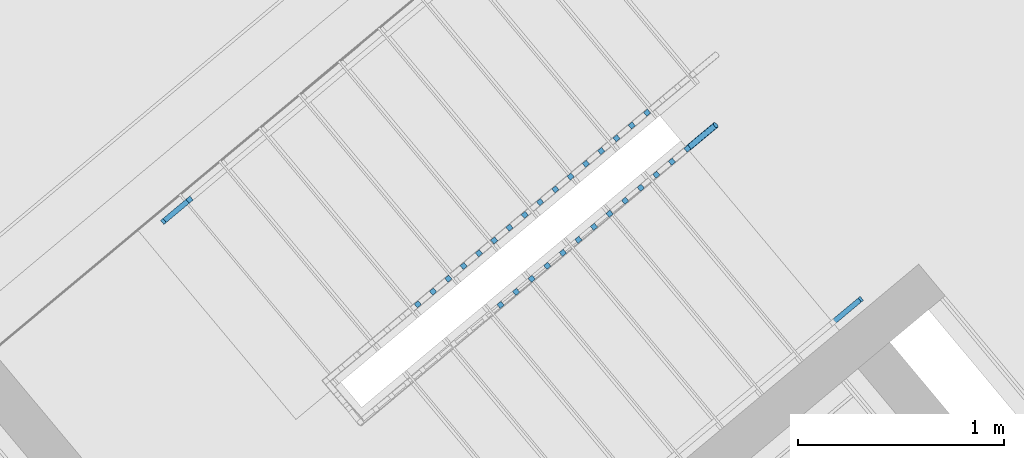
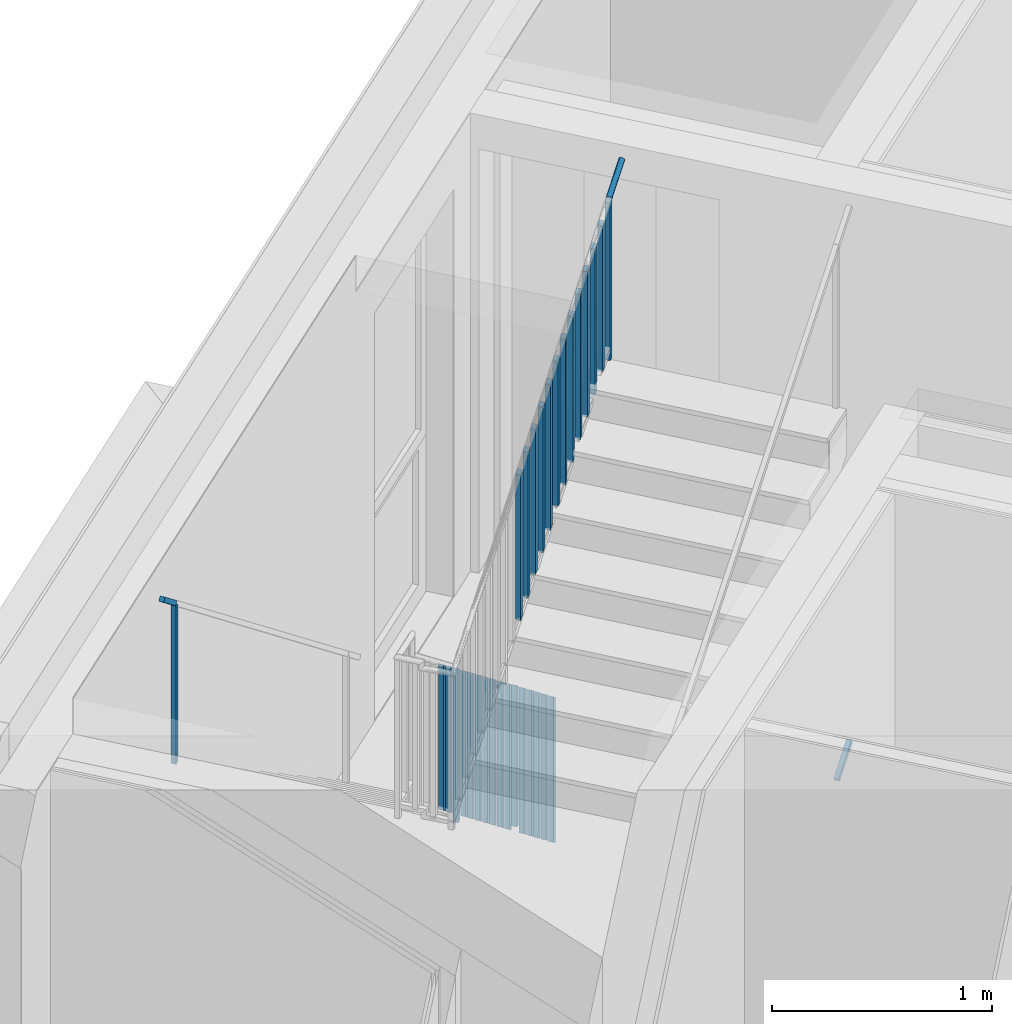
# One storey, part 44 of 53: 33 building element parts, 3 elements without a shape of their own.
"""IFC4 building model written with IfcOpenShell, lengths in metres."""

import ifcopenshell
import ifcopenshell.guid

model = None  # the IFC model being written
_history = None  # IfcOwnerHistory: only IFC2X3 demands one
_inside = {}  # id of a spatial element -> (the spatial element, [elements in it])
_under = {}  # id of a project, library or spatial element -> (it, [spatial elements below it])
_declared = {}  # id of a project -> (the project, [libraries it declares])
_typed = {}  # id of a type object -> (the type object, [elements of that type])
_made_of = {}  # id of a material, layer set ... -> (it, [elements and type objects made of it])


def new_model(schema):
    """Start an empty IFC model of exactly this schema.

    Asked for "IFC4X3", IfcOpenShell would pick the latest addendum, in which some entities
    have other attributes; the version numbers below select the first issue.
    IFC2X3 requires an IfcOwnerHistory on every rooted entity: one is made here for all.
    """
    global model, _history
    if schema == "IFC4X3":
        model = ifcopenshell.file(schema_version=(4, 3, 0, 0))
    else:
        model = ifcopenshell.file(schema=schema)
    _inside.clear()
    _under.clear()
    _declared.clear()
    _typed.clear()
    _made_of.clear()
    _history = None
    if model.schema == "IFC2X3":
        org = make("IfcOrganization", Name="unknown")
        user = make(
            "IfcPersonAndOrganization",
            ThePerson=make("IfcPerson", FamilyName="unknown"),
            TheOrganization=org,
        )
        app = make(
            "IfcApplication",
            ApplicationDeveloper=org,
            Version="unknown",
            ApplicationFullName="unknown",
            ApplicationIdentifier="unknown",
        )
        _history = make(
            "IfcOwnerHistory",
            OwningUser=user,
            OwningApplication=app,
            ChangeAction="ADDED",
            CreationDate=0,
        )
    return model


def make(cls, **values):
    """One entity of the class cls with the attributes given. An attribute that is None is left unset."""
    return model.create_entity(
        cls, **{name: value for name, value in values.items() if value is not None}
    )


def entity(cls, *values):
    """Any entity or typed value of the class cls, its attributes in the order of the schema. None: left unset."""
    e = model.create_entity(cls)
    for i, value in enumerate(values):
        if value is not None:
            e[i] = value
    return e


def rooted(cls, **values):
    """An entity with a GlobalId (a new one), such as an element, a storey or a relation."""
    return make(cls, GlobalId=ifcopenshell.guid.new(), OwnerHistory=_history, **values)


def si_unit(unit_type, name, prefix=None):
    """IfcSIUnit, for example si_unit("LENGTHUNIT", "METRE", prefix="MILLI")."""
    return make("IfcSIUnit", UnitType=unit_type, Prefix=prefix, Name=name)


def converted_unit(unit_type, name, factor, base, dimensions=None, offset=None):
    """IfcConversionBasedUnit, such as the inch: factor (a typed value) times the base unit."""
    return make(
        "IfcConversionBasedUnit"
        if offset is None
        else "IfcConversionBasedUnitWithOffset",
        ConversionOffset=offset,
        Dimensions=None
        if dimensions is None
        else entity("IfcDimensionalExponents", *dimensions),
        UnitType=unit_type,
        Name=name,
        ConversionFactor=make(
            "IfcMeasureWithUnit", ValueComponent=factor, UnitComponent=base
        ),
    )


def derived_unit(unit_type, elements):
    """IfcDerivedUnit: a product of units, each with its exponent."""
    return make(
        "IfcDerivedUnit",
        Elements=[
            make("IfcDerivedUnitElement", Unit=unit, Exponent=power)
            for unit, power in elements
        ],
        UnitType=unit_type,
    )


def assignment(units):
    """IfcUnitAssignment: the units of a project."""
    return None if units is None else make("IfcUnitAssignment", Units=units)


def point(xyz):
    """IfcCartesianPoint."""
    return None if xyz is None else make("IfcCartesianPoint", Coordinates=xyz)


def direction(xyz):
    """IfcDirection."""
    return None if xyz is None else make("IfcDirection", DirectionRatios=xyz)


def frame(location, z_axis=None, x_axis=None):
    """IfcAxis2Placement3D, a coordinate frame: its origin and axes. An axis left out is left unset."""
    return make(
        "IfcAxis2Placement3D",
        Location=point(location),
        Axis=direction(z_axis),
        RefDirection=direction(x_axis),
    )


def origin_with_axes():
    """The frame at (0, 0, 0) with the z axis (0, 0, 1) and the x axis (1, 0, 0) written out."""
    return frame((0.0, 0.0, 0.0), z_axis=(0.0, 0.0, 1.0), x_axis=(1.0, 0.0, 0.0))


def place(relative_to, where):
    """IfcLocalPlacement: puts the frame where relative to a parent placement (None: the world)."""
    return make(
        "IfcLocalPlacement", PlacementRelTo=relative_to, RelativePlacement=where
    )


def context(
    kind, dimensions, precision=None, world=None, true_north=None, identifier=None
):
    """IfcGeometricRepresentationContext, for example the 3D "Model" context."""
    return make(
        "IfcGeometricRepresentationContext",
        ContextIdentifier=identifier,
        ContextType=kind,
        CoordinateSpaceDimension=dimensions,
        Precision=precision,
        WorldCoordinateSystem=world,
        TrueNorth=true_north,
    )


def subcontext(parent, identifier, kind, view, scale=None):
    """IfcGeometricRepresentationSubContext, for example "Body" below "Model"."""
    return make(
        "IfcGeometricRepresentationSubContext",
        ContextIdentifier=identifier,
        ContextType=kind,
        ParentContext=parent,
        TargetScale=scale,
        TargetView=view,
    )


def project(units=None, contexts=None):
    """IfcProject with its units and contexts."""
    return rooted(
        "IfcProject",
        Name="project",
        RepresentationContexts=contexts,
        UnitsInContext=assignment(units),
    )


def spatial(cls, under=None, at=None, **own):
    """A site, building, storey or space (cls), placed at a placement, below another one or the project."""
    s = rooted(cls, ObjectPlacement=at, **own)
    if under is not None:
        _under.setdefault(under.id(), (under, []))[1].append(s)
    return s


def point_list(points):
    """IfcCartesianPointList2D or 3D."""
    cls = (
        "IfcCartesianPointList2D" if len(points[0]) == 2 else "IfcCartesianPointList3D"
    )
    return make(cls, CoordList=points)


def polygons(points, faces, closed=None, point_numbers=None):
    """IfcPolygonalFaceSet: a face is its outer loop, then its inner loops; points numbered from 1."""
    made = []
    for loops in faces:
        if len(loops) == 1:
            made.append(make("IfcIndexedPolygonalFace", CoordIndex=loops[0]))
        else:
            made.append(
                make(
                    "IfcIndexedPolygonalFaceWithVoids",
                    CoordIndex=loops[0],
                    InnerCoordIndices=loops[1:],
                )
            )
    return make(
        "IfcPolygonalFaceSet",
        Coordinates=point_list(points),
        Closed=closed,
        Faces=made,
        PnIndex=point_numbers,
    )


def shape(context_of_items, identifier, shape_type, items):
    """IfcShapeRepresentation: the items that make up one representation, for example the "Body"."""
    return make(
        "IfcShapeRepresentation",
        ContextOfItems=context_of_items,
        RepresentationIdentifier=identifier,
        RepresentationType=shape_type,
        Items=items,
    )


def material(Name=None, Category=None):
    """IfcMaterial."""
    return make("IfcMaterial", Name=Name, Category=Category)


def made_of(thing, what):
    """Note that an element or type object is made of a material, layer set ...; save() writes the relation."""
    if what is not None:
        _made_of.setdefault(what.id(), (what, []))[1].append(thing)
    return thing


def type_object(cls, material=None, **own):
    """A type object (cls), such as IfcWallType, which elements share."""
    return made_of(rooted(cls, **own), material)


def element(
    cls,
    number,
    at=None,
    inside=None,
    cuts=None,
    type_object=None,
    material=None,
    context=None,
    identifier="Body",
    shape_type=None,
    held_by="IfcProductDefinitionShape",
    body=None,
    shapes=None,
    **own,
):
    """One element of the class cls, such as IfcWall. Its Tag is "e" and its number.

    at: its placement. inside: the storey or other place that contains it. cuts: it is an
    opening in that element (IfcRelVoidsElement). A single representation is given by context,
    identifier, shape_type and body (its items); several are given by shapes. held_by: the class
    of the entity that holds the representations. save() writes the other relations.
    """
    e = rooted(cls, Tag="e%d" % number, ObjectPlacement=at, **own)
    if body is not None:
        shapes = [shape(context, identifier, shape_type, body)]
    if shapes is not None:
        e.Representation = make(held_by, Representations=shapes)
    if inside is not None:
        _inside.setdefault(inside.id(), (inside, []))[1].append(e)
    if cuts is not None:
        rooted(
            "IfcRelVoidsElement", RelatingBuildingElement=cuts, RelatedOpeningElement=e
        )
    if type_object is not None:
        _typed.setdefault(type_object.id(), (type_object, []))[1].append(e)
    return made_of(e, material)


def aggregate(whole, parts):
    """IfcRelAggregates: a whole, such as a stair, and the parts it consists of."""
    return rooted("IfcRelAggregates", RelatingObject=whole, RelatedObjects=parts)


def save(model, path):
    """Write the relations noted so far, then the file.

    IfcRelAggregates (storeys below a building ...), IfcRelContainedInSpatialStructure (elements
    in a storey), IfcRelDefinesByType, IfcRelAssociatesMaterial and IfcRelDeclares: one each for
    every whole, place, type object, material and project.
    """
    for whole, parts in _under.values():
        aggregate(whole, parts)
    for where, things in _inside.values():
        rooted(
            "IfcRelContainedInSpatialStructure",
            RelatedElements=things,
            RelatingStructure=where,
        )
    for kind, things in _typed.values():
        rooted("IfcRelDefinesByType", RelatedObjects=things, RelatingType=kind)
    for what, things in _made_of.values():
        rooted("IfcRelAssociatesMaterial", RelatedObjects=things, RelatingMaterial=what)
    for by, libraries in _declared.values():
        rooted("IfcRelDeclares", RelatingContext=by, RelatedDefinitions=libraries)
    model.write(path)


model = new_model("IFC4")

# Units and contexts
model_context = context("Model", 3, precision=1e-05, world=origin_with_axes(), true_north=direction((0.0, 1.0)))
body_context = subcontext(model_context, "Body", "Model", "MODEL_VIEW")
ifc_project = project(units=[si_unit("LENGTHUNIT", "METRE"), si_unit("AREAUNIT", "SQUARE_METRE"), si_unit("VOLUMEUNIT", "CUBIC_METRE"), converted_unit("PLANEANGLEUNIT", "DEGREE", entity("IfcPlaneAngleMeasure", 0.0174532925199), si_unit("PLANEANGLEUNIT", "RADIAN"), dimensions=[0, 0, 0, 0, 0, 0, 0]), converted_unit("TIMEUNIT", "Year", entity("IfcTimeMeasure", 31556926.0), si_unit("TIMEUNIT", "SECOND"), dimensions=[0, 0, 1, 0, 0, 0, 0]), si_unit("MASSUNIT", "GRAM", prefix="KILO"), si_unit("THERMODYNAMICTEMPERATUREUNIT", "DEGREE_CELSIUS"), si_unit("LUMINOUSINTENSITYUNIT", "LUMEN"), si_unit("ENERGYUNIT", "JOULE", prefix="MEGA"), derived_unit("THERMALCONDUCTANCEUNIT", [(si_unit("POWERUNIT", "WATT"), 1), (si_unit("LENGTHUNIT", "METRE"), -1), (si_unit("THERMODYNAMICTEMPERATUREUNIT", "KELVIN"), -1)]), derived_unit("SPECIFICHEATCAPACITYUNIT", [(si_unit("ENERGYUNIT", "JOULE"), 1), (si_unit("MASSUNIT", "GRAM", prefix="KILO"), -1), (si_unit("THERMODYNAMICTEMPERATUREUNIT", "KELVIN"), -1)]), derived_unit("MASSDENSITYUNIT", [(si_unit("MASSUNIT", "GRAM", prefix="KILO"), 1), (si_unit("VOLUMEUNIT", "CUBIC_METRE"), -1)])], contexts=[model_context])

# Site, building, storey, space
site_placement = place(None, frame((-0.00153261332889, -0.00661245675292, 0.0), z_axis=(0.0, 0.0, 1.0), x_axis=(1.0, 0.0, 0.0)))
site = spatial("IfcSite", under=ifc_project, at=site_placement, Name="Gelände", CompositionType="ELEMENT")
building_placement = place(site_placement, origin_with_axes())
building = spatial("IfcBuilding", under=site, at=building_placement, Name="Gebäude", CompositionType="ELEMENT")
storey_placement = place(building_placement, frame((0.0, 0.0, 2.74), z_axis=(0.0, 0.0, 1.0), x_axis=(1.0, 0.0, 0.0)))
storey = spatial("IfcBuildingStorey", under=building, at=storey_placement, Name="OG1", CompositionType="ELEMENT", Elevation=2.74)
space_1_placement = place(storey_placement, frame((0.186433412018, 25.8823467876, 0.22), z_axis=(0.0, 0.0, 1.0), x_axis=(-0.767365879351, -0.641209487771, 0.0)))
space_1 = spatial("IfcSpace", under=storey, at=space_1_placement, CompositionType="ELEMENT", PredefinedType="NOTDEFINED")

# Railing, building element part
railing_type = type_object("IfcRailingType", Name="Geländerart", PredefinedType="NOTDEFINED")
railing_1_placement = place(space_1_placement, frame((4.02646190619, 2.55537097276, -1.35941176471), z_axis=(0.0, 0.0, 1.0), x_axis=(-0.767365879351, 0.641209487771, 0.0)))
railing_1 = element("IfcRailing", 1, at=railing_1_placement, inside=space_1, type_object=railing_type, Name="Geländer - 002", PredefinedType="NOTDEFINED")
ifc_material = material(Name="BEKLEIDUNG")
building_element_part_1_placement = place(railing_1_placement, origin_with_axes())
building_element_part_1 = element("IfcBuildingElementPart", 2, at=building_element_part_1_placement, material=ifc_material, Name="BEKLEIDUNG", PredefinedType="NOTDEFINED", context=body_context, shape_type="Tessellation", body=[
    polygons([(1.52106335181, 1.31986626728, 2.13941176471), (1.53111960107, 1.32826925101, 2.11812182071), (1.66181700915, 1.43747976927, 2.22296098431), (1.65176075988, 1.42907678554, 2.24425092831), (1.50503311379, 1.33905041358, 2.13941176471), (1.51508936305, 1.34745339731, 2.11812182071), (1.64578677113, 1.45666391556, 2.22296098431), (1.63573052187, 1.44826093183, 2.24425092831)], [[[1, 2, 3, 4]], [[1, 5, 6, 2]], [[2, 6, 7, 3]], [[4, 3, 7, 8]], [[5, 1, 4, 8]], [[6, 5, 8, 7]]], closed=True),
])
aggregate(railing_1, [building_element_part_1])

# Space
space_2_placement = place(storey_placement, frame((0.280300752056, 22.6307267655, 0.22), z_axis=(0.0, 0.0, 1.0), x_axis=(-0.641244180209, 0.767336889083, 0.0)))
space_2 = spatial("IfcSpace", under=storey, at=space_2_placement, CompositionType="ELEMENT", PredefinedType="NOTDEFINED")

# Railing, building element parts
railing_2_placement = place(space_2_placement, frame((1.35982515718, -0.251690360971, -0.17), z_axis=(0.0, 0.0, 1.0), x_axis=(-0.641244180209, -0.767336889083, 0.0)))
railing_2 = element("IfcRailing", 3, at=railing_2_placement, inside=space_2, type_object=railing_type, Name="Geländer - 001", PredefinedType="NOTDEFINED")
building_element_part_2_placement = place(railing_2_placement, origin_with_axes())
building_element_part_2 = element("IfcBuildingElementPart", 4, at=building_element_part_2_placement, material=ifc_material, Name="BEKLEIDUNG", PredefinedType="NOTDEFINED", context=body_context, shape_type="Tessellation", body=[
    polygons([(-0.0409350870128, -0.323945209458, 3.01), (-0.0569653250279, -0.30476106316, 3.01), (-0.0569653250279, -0.30476106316, 3.89767233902), (-0.0409350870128, -0.323945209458, 3.89767233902), (-0.0601192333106, -0.339975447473, 3.01), (-0.0761494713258, -0.320791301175, 3.01), (-0.0761494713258, -0.320791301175, 3.88232766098), (-0.0601192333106, -0.339975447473, 3.88232766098)], [[[1, 2, 3, 4]], [[1, 5, 6, 2]], [[2, 6, 7, 3]], [[4, 3, 7, 8]], [[5, 1, 4, 8]], [[6, 5, 8, 7]]], closed=True),
])
building_element_part_3_placement = place(railing_2_placement, origin_with_axes())
building_element_part_3 = element("IfcBuildingElementPart", 5, at=building_element_part_3_placement, material=ifc_material, Name="BEKLEIDUNG", PredefinedType="NOTDEFINED", context=body_context, shape_type="Tessellation", body=[
    polygons([(-0.0621391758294, -0.305826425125, 3.89721601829), (-0.0630386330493, -0.30687497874, 3.89943593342), (0.0677612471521, -0.197578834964, 4.00405784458), (0.068660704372, -0.196530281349, 4.00183792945), (-0.0609474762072, -0.305127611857, 3.89499610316), (-0.0594997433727, -0.304799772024, 3.89284363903), (-0.0578399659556, -0.304852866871, 3.89082402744), (-0.0560185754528, -0.305285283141, 3.88899863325), (-0.054090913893, -0.306083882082, 3.88742292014), (-0.0521155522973, -0.30722439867, 3.88614476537), (-0.0501525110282, -0.308672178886, 3.88520300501), (-0.0482614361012, -0.310383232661, 3.88462625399), (-0.0464997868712, -0.312305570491, 3.88443203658), (-0.0449210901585, -0.314380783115, 3.88462625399), (-0.043573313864, -0.316545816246, 3.88520300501), (-0.0424974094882, -0.318734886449, 3.88614476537), (-0.0417260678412, -0.320881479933, 3.88742292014), (-0.0412827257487, -0.322920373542, 3.88899863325), (-0.0411808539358, -0.324789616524, 3.89082402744), (-0.041423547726, -0.326432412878, 3.89284363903), (-0.0420034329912, -0.327798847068, 3.89499610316), (-0.0429028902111, -0.328847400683, 3.89721601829), (-0.0440945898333, -0.329546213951, 3.89943593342), (-0.0455423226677, -0.329874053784, 3.90158839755), (-0.0472021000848, -0.329820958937, 3.90360800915), (-0.0490234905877, -0.329388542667, 3.90543340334), (-0.0509511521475, -0.328589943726, 3.90700911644), (-0.0529265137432, -0.327449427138, 3.90828727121), (-0.0548895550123, -0.326001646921, 3.90922903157), (-0.0567806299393, -0.324290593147, 3.90980578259), (-0.0585422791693, -0.322368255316, 3.91), (-0.0601209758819, -0.320293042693, 3.90980578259), (-0.0614687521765, -0.318128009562, 3.90922903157), (-0.0625446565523, -0.315938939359, 3.90828727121), (-0.0633159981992, -0.313792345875, 3.90700911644), (-0.0637593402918, -0.311753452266, 3.90543340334), (-0.0638612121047, -0.309884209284, 3.90360800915), (-0.0636185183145, -0.30824141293, 3.90158839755), (0.0671813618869, -0.198945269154, 4.00621030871), (0.0669386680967, -0.200588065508, 4.00822992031), (0.0670405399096, -0.20245730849, 4.0100553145), (0.0674838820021, -0.204496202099, 4.0116310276), (0.0682552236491, -0.206642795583, 4.01290918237), (0.0693311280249, -0.208831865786, 4.01385094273), (0.0706789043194, -0.210996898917, 4.01442769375), (0.0722576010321, -0.213072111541, 4.01462191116), (0.0740192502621, -0.214994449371, 4.01442769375), (0.0759103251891, -0.216705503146, 4.01385094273), (0.0778733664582, -0.218153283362, 4.01290918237), (0.0798487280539, -0.21929379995, 4.0116310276), (0.0817763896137, -0.220092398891, 4.0100553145), (0.0835977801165, -0.220524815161, 4.00822992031), (0.0852575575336, -0.220577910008, 4.00621030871), (0.0867052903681, -0.220250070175, 4.00405784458), (0.0878969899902, -0.219551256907, 4.00183792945), (0.0887964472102, -0.218502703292, 3.99961801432), (0.0893763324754, -0.217136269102, 3.9974655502), (0.0896190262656, -0.215493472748, 3.9954459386), (0.0895171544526, -0.213624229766, 3.99362054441), (0.0890738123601, -0.211585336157, 3.9920448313), (0.0883024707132, -0.209438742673, 3.99076667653), (0.0872265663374, -0.20724967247, 3.98982491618), (0.0858787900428, -0.205084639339, 3.98924816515), (0.0843000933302, -0.203009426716, 3.98905394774), (0.0825384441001, -0.201087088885, 3.98924816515), (0.0806473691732, -0.199376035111, 3.98982491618), (0.0786843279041, -0.197928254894, 3.99076667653), (0.0767089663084, -0.196787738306, 3.9920448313), (0.0747813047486, -0.195989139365, 3.99362054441), (0.0729599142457, -0.195556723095, 3.9954459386), (0.0713001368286, -0.195503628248, 3.9974655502), (0.0698524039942, -0.195831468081, 3.99961801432)], [[[1, 2, 3, 4]], [[1, 5, 6, 7, 8, 9, 10, 11, 12, 13, 14, 15, 16, 17, 18, 19, 20, 21, 22, 23, 24, 25, 26, 27, 28, 29, 30, 31, 32, 33, 34, 35, 36, 37, 38, 2]], [[2, 38, 39, 3]], [[4, 3, 39, 40, 41, 42, 43, 44, 45, 46, 47, 48, 49, 50, 51, 52, 53, 54, 55, 56, 57, 58, 59, 60, 61, 62, 63, 64, 65, 66, 67, 68, 69, 70, 71, 72]], [[5, 1, 4, 72]], [[6, 5, 72, 71]], [[7, 6, 71, 70]], [[8, 7, 70, 69]], [[9, 8, 69, 68]], [[10, 9, 68, 67]], [[11, 10, 67, 66]], [[12, 11, 66, 65]], [[13, 12, 65, 64]], [[14, 13, 64, 63]], [[15, 14, 63, 62]], [[16, 15, 62, 61]], [[17, 16, 61, 60]], [[18, 17, 60, 59]], [[19, 18, 59, 58]], [[20, 19, 58, 57]], [[21, 20, 57, 56]], [[22, 21, 56, 55]], [[23, 22, 55, 54]], [[24, 23, 54, 53]], [[25, 24, 53, 52]], [[26, 25, 52, 51]], [[27, 26, 51, 50]], [[28, 27, 50, 49]], [[29, 28, 49, 48]], [[30, 29, 48, 47]], [[31, 30, 47, 46]], [[32, 31, 46, 45]], [[33, 32, 45, 44]], [[34, 33, 44, 43]], [[35, 34, 43, 42]], [[36, 35, 42, 41]], [[37, 36, 41, 40]], [[38, 37, 40, 39]]], closed=True),
])
building_element_part_4_placement = place(railing_2_placement, origin_with_axes())
building_element_part_4 = element("IfcBuildingElementPart", 6, at=building_element_part_4_placement, material=ifc_material, Name="BEKLEIDUNG", PredefinedType="NOTDEFINED", context=body_context, shape_type="Tessellation", body=[
    polygons([(-0.272299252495, -0.146065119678, 0.30594278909), (-0.256269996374, -0.165250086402, 0.30594278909), (-0.256269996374, -0.165250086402, 1.11344278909), (-0.272299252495, -0.146065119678, 1.11344278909), (-0.253114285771, -0.130035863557, 0.286450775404), (-0.23708502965, -0.149220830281, 0.286450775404), (-0.23708502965, -0.149220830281, 1.0939507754), (-0.253114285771, -0.130035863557, 1.0939507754)], [[[1, 2, 3, 4]], [[1, 5, 6, 2]], [[2, 6, 7, 3]], [[4, 3, 7, 8]], [[5, 1, 4, 8]], [[6, 5, 8, 7]]], closed=True),
])
building_element_part_5_placement = place(railing_2_placement, origin_with_axes())
building_element_part_5 = element("IfcBuildingElementPart", 7, at=building_element_part_5_placement, material=ifc_material, Name="BEKLEIDUNG", PredefinedType="NOTDEFINED", context=body_context, shape_type="Tessellation", body=[
    polygons([(-0.346510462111, -0.20806942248, 0.381341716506), (-0.33048120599, -0.227254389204, 0.381341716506), (-0.33048120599, -0.227254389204, 1.18884171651), (-0.346510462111, -0.20806942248, 1.18884171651), (-0.327325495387, -0.192040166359, 0.36184970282), (-0.311296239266, -0.211225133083, 0.36184970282), (-0.311296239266, -0.211225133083, 1.16934970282), (-0.327325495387, -0.192040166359, 1.16934970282)], [[[1, 2, 3, 4]], [[1, 5, 6, 2]], [[2, 6, 7, 3]], [[4, 3, 7, 8]], [[5, 1, 4, 8]], [[6, 5, 8, 7]]], closed=True),
])
building_element_part_6_placement = place(railing_2_placement, origin_with_axes())
building_element_part_6 = element("IfcBuildingElementPart", 8, at=building_element_part_6_placement, material=ifc_material, Name="BEKLEIDUNG", PredefinedType="NOTDEFINED", context=body_context, shape_type="Tessellation", body=[
    polygons([(-0.420721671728, -0.270073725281, 0.456740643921), (-0.404692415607, -0.289258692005, 0.456740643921), (-0.404692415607, -0.289258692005, 1.26424064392), (-0.420721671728, -0.270073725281, 1.26424064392), (-0.401536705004, -0.25404446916, 0.437248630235), (-0.385507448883, -0.273229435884, 0.437248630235), (-0.385507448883, -0.273229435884, 1.24474863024), (-0.401536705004, -0.25404446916, 1.24474863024)], [[[1, 2, 3, 4]], [[1, 5, 6, 2]], [[2, 6, 7, 3]], [[4, 3, 7, 8]], [[5, 1, 4, 8]], [[6, 5, 8, 7]]], closed=True),
])
building_element_part_7_placement = place(railing_2_placement, origin_with_axes())
building_element_part_7 = element("IfcBuildingElementPart", 9, at=building_element_part_7_placement, material=ifc_material, Name="BEKLEIDUNG", PredefinedType="NOTDEFINED", context=body_context, shape_type="Tessellation", body=[
    polygons([(-0.494932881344, -0.332078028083, 0.532139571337), (-0.478903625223, -0.351262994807, 0.532139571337), (-0.478903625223, -0.351262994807, 1.33963957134), (-0.494932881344, -0.332078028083, 1.33963957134), (-0.47574791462, -0.316048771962, 0.512647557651), (-0.459718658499, -0.335233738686, 0.512647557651), (-0.459718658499, -0.335233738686, 1.32014755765), (-0.47574791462, -0.316048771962, 1.32014755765)], [[[1, 2, 3, 4]], [[1, 5, 6, 2]], [[2, 6, 7, 3]], [[4, 3, 7, 8]], [[5, 1, 4, 8]], [[6, 5, 8, 7]]], closed=True),
])
building_element_part_8_placement = place(railing_2_placement, origin_with_axes())
building_element_part_8 = element("IfcBuildingElementPart", 10, at=building_element_part_8_placement, material=ifc_material, Name="BEKLEIDUNG", PredefinedType="NOTDEFINED", context=body_context, shape_type="Tessellation", body=[
    polygons([(-0.56914409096, -0.394082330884, 0.607538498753), (-0.553114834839, -0.413267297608, 0.607538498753), (-0.553114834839, -0.413267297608, 1.41503849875), (-0.56914409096, -0.394082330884, 1.41503849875), (-0.549959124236, -0.378053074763, 0.588046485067), (-0.533929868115, -0.397238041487, 0.588046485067), (-0.533929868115, -0.397238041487, 1.39554648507), (-0.549959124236, -0.378053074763, 1.39554648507)], [[[1, 2, 3, 4]], [[1, 5, 6, 2]], [[2, 6, 7, 3]], [[4, 3, 7, 8]], [[5, 1, 4, 8]], [[6, 5, 8, 7]]], closed=True),
])
building_element_part_9_placement = place(railing_2_placement, origin_with_axes())
building_element_part_9 = element("IfcBuildingElementPart", 11, at=building_element_part_9_placement, material=ifc_material, Name="BEKLEIDUNG", PredefinedType="NOTDEFINED", context=body_context, shape_type="Tessellation", body=[
    polygons([(-0.643355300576, -0.456086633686, 0.708235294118), (-0.627326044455, -0.47527160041, 0.708235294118), (-0.627326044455, -0.47527160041, 1.49293742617), (-0.643355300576, -0.456086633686, 1.49293742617), (-0.624170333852, -0.440057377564, 0.708235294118), (-0.608141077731, -0.459242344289, 0.708235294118), (-0.608141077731, -0.459242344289, 1.47344541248), (-0.624170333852, -0.440057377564, 1.47344541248)], [[[1, 2, 3, 4]], [[1, 5, 6, 2]], [[2, 6, 7, 3]], [[4, 3, 7, 8]], [[5, 1, 4, 8]], [[6, 5, 8, 7]]], closed=True),
])
building_element_part_10_placement = place(railing_2_placement, origin_with_axes())
building_element_part_10 = element("IfcBuildingElementPart", 12, at=building_element_part_10_placement, material=ifc_material, Name="BEKLEIDUNG", PredefinedType="NOTDEFINED", context=body_context, shape_type="Tessellation", body=[
    polygons([(-0.717566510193, -0.518090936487, 0.758336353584), (-0.701537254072, -0.537275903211, 0.758336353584), (-0.701537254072, -0.537275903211, 1.56583635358), (-0.717566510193, -0.518090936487, 1.56583635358), (-0.698381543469, -0.502061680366, 0.738844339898), (-0.682352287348, -0.52124664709, 0.738844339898), (-0.682352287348, -0.52124664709, 1.5463443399), (-0.698381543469, -0.502061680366, 1.5463443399)], [[[1, 2, 3, 4]], [[1, 5, 6, 2]], [[2, 6, 7, 3]], [[4, 3, 7, 8]], [[5, 1, 4, 8]], [[6, 5, 8, 7]]], closed=True),
])
building_element_part_11_placement = place(railing_2_placement, origin_with_axes())
building_element_part_11 = element("IfcBuildingElementPart", 13, at=building_element_part_11_placement, material=ifc_material, Name="BEKLEIDUNG", PredefinedType="NOTDEFINED", context=body_context, shape_type="Tessellation", body=[
    polygons([(-0.791777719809, -0.580095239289, 0.833735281), (-0.775748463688, -0.599280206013, 0.833735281), (-0.775748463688, -0.599280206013, 1.641235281), (-0.791777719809, -0.580095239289, 1.641235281), (-0.772592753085, -0.564065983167, 0.814243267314), (-0.756563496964, -0.583250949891, 0.814243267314), (-0.756563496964, -0.583250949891, 1.62174326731), (-0.772592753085, -0.564065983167, 1.62174326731)], [[[1, 2, 3, 4]], [[1, 5, 6, 2]], [[2, 6, 7, 3]], [[4, 3, 7, 8]], [[5, 1, 4, 8]], [[6, 5, 8, 7]]], closed=True),
])
building_element_part_12_placement = place(railing_2_placement, origin_with_axes())
building_element_part_12 = element("IfcBuildingElementPart", 14, at=building_element_part_12_placement, material=ifc_material, Name="BEKLEIDUNG", PredefinedType="NOTDEFINED", context=body_context, shape_type="Tessellation", body=[
    polygons([(-0.865988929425, -0.64209954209, 0.909134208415), (-0.849959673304, -0.661284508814, 0.909134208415), (-0.849959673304, -0.661284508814, 1.71663420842), (-0.865988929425, -0.64209954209, 1.71663420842), (-0.846803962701, -0.626070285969, 0.889642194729), (-0.83077470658, -0.645255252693, 0.889642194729), (-0.83077470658, -0.645255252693, 1.69714219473), (-0.846803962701, -0.626070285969, 1.69714219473)], [[[1, 2, 3, 4]], [[1, 5, 6, 2]], [[2, 6, 7, 3]], [[4, 3, 7, 8]], [[5, 1, 4, 8]], [[6, 5, 8, 7]]], closed=True),
])
building_element_part_13_placement = place(railing_2_placement, origin_with_axes())
building_element_part_13 = element("IfcBuildingElementPart", 15, at=building_element_part_13_placement, material=ifc_material, Name="BEKLEIDUNG", PredefinedType="NOTDEFINED", context=body_context, shape_type="Tessellation", body=[
    polygons([(-0.940200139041, -0.704103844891, 0.984533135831), (-0.92417088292, -0.723288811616, 0.984533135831), (-0.92417088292, -0.723288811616, 1.79203313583), (-0.940200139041, -0.704103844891, 1.79203313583), (-0.921015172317, -0.68807458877, 0.965041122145), (-0.904985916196, -0.707259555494, 0.965041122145), (-0.904985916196, -0.707259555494, 1.77254112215), (-0.921015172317, -0.68807458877, 1.77254112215)], [[[1, 2, 3, 4]], [[1, 5, 6, 2]], [[2, 6, 7, 3]], [[4, 3, 7, 8]], [[5, 1, 4, 8]], [[6, 5, 8, 7]]], closed=True),
])
building_element_part_14_placement = place(railing_2_placement, origin_with_axes())
building_element_part_14 = element("IfcBuildingElementPart", 16, at=building_element_part_14_placement, material=ifc_material, Name="BEKLEIDUNG", PredefinedType="NOTDEFINED", context=body_context, shape_type="Tessellation", body=[
    polygons([(-1.01441134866, -0.766108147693, 1.05993206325), (-0.998382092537, -0.785293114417, 1.05993206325), (-0.998382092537, -0.785293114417, 1.86743206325), (-1.01441134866, -0.766108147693, 1.86743206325), (-0.995226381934, -0.750078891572, 1.04044004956), (-0.979197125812, -0.769263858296, 1.04044004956), (-0.979197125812, -0.769263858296, 1.84794004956), (-0.995226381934, -0.750078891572, 1.84794004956)], [[[1, 2, 3, 4]], [[1, 5, 6, 2]], [[2, 6, 7, 3]], [[4, 3, 7, 8]], [[5, 1, 4, 8]], [[6, 5, 8, 7]]], closed=True),
])
building_element_part_15_placement = place(railing_2_placement, origin_with_axes())
building_element_part_15 = element("IfcBuildingElementPart", 17, at=building_element_part_15_placement, material=ifc_material, Name="BEKLEIDUNG", PredefinedType="NOTDEFINED", context=body_context, shape_type="Tessellation", body=[
    polygons([(-1.08862255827, -0.828112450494, 1.13533099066), (-1.07259330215, -0.847297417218, 1.13533099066), (-1.07259330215, -0.847297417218, 1.94283099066), (-1.08862255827, -0.828112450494, 1.94283099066), (-1.06943759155, -0.812083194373, 1.11583897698), (-1.05340833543, -0.831268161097, 1.11583897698), (-1.05340833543, -0.831268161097, 1.92333897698), (-1.06943759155, -0.812083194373, 1.92333897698)], [[[1, 2, 3, 4]], [[1, 5, 6, 2]], [[2, 6, 7, 3]], [[4, 3, 7, 8]], [[5, 1, 4, 8]], [[6, 5, 8, 7]]], closed=True),
])
building_element_part_16_placement = place(railing_2_placement, origin_with_axes())
building_element_part_16 = element("IfcBuildingElementPart", 18, at=building_element_part_16_placement, material=ifc_material, Name="BEKLEIDUNG", PredefinedType="NOTDEFINED", context=body_context, shape_type="Tessellation", body=[
    polygons([(-1.16283376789, -0.890116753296, 1.21072991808), (-1.14680451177, -0.90930172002, 1.21072991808), (-1.14680451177, -0.90930172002, 2.01822991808), (-1.16283376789, -0.890116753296, 2.01822991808), (-1.14364880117, -0.874087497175, 1.19123790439), (-1.12761954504, -0.893272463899, 1.19123790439), (-1.12761954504, -0.893272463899, 1.99873790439), (-1.14364880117, -0.874087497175, 1.99873790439)], [[[1, 2, 3, 4]], [[1, 5, 6, 2]], [[2, 6, 7, 3]], [[4, 3, 7, 8]], [[5, 1, 4, 8]], [[6, 5, 8, 7]]], closed=True),
])
building_element_part_17_placement = place(railing_2_placement, origin_with_axes())
building_element_part_17 = element("IfcBuildingElementPart", 19, at=building_element_part_17_placement, material=ifc_material, Name="BEKLEIDUNG", PredefinedType="NOTDEFINED", context=body_context, shape_type="Tessellation", body=[
    polygons([(-1.23704497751, -0.952121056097, 1.23941176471), (-1.22101572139, -0.971306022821, 1.23941176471), (-1.22101572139, -0.971306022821, 2.09612884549), (-1.23704497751, -0.952121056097, 2.09612884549), (-1.21786001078, -0.936091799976, 1.23941176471), (-1.20183075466, -0.9552767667, 1.23941176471), (-1.20183075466, -0.9552767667, 2.07663683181), (-1.21786001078, -0.936091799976, 2.07663683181)], [[[1, 2, 3, 4]], [[1, 5, 6, 2]], [[2, 6, 7, 3]], [[4, 3, 7, 8]], [[5, 1, 4, 8]], [[6, 5, 8, 7]]], closed=True),
])
building_element_part_18_placement = place(railing_2_placement, origin_with_axes())
building_element_part_18 = element("IfcBuildingElementPart", 20, at=building_element_part_18_placement, material=ifc_material, Name="BEKLEIDUNG", PredefinedType="NOTDEFINED", context=body_context, shape_type="Tessellation", body=[
    polygons([(-1.31125618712, -1.0141253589, 1.36152777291), (-1.295226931, -1.03331032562, 1.36152777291), (-1.295226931, -1.03331032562, 2.16902777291), (-1.31125618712, -1.0141253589, 2.16902777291), (-1.2920712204, -0.998096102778, 1.34203575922), (-1.27604196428, -1.0172810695, 1.34203575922), (-1.27604196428, -1.0172810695, 2.14953575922), (-1.2920712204, -0.998096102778, 2.14953575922)], [[[1, 2, 3, 4]], [[1, 5, 6, 2]], [[2, 6, 7, 3]], [[4, 3, 7, 8]], [[5, 1, 4, 8]], [[6, 5, 8, 7]]], closed=True),
])
building_element_part_19_placement = place(railing_2_placement, origin_with_axes())
building_element_part_19 = element("IfcBuildingElementPart", 21, at=building_element_part_19_placement, material=ifc_material, Name="BEKLEIDUNG", PredefinedType="NOTDEFINED", context=body_context, shape_type="Tessellation", body=[
    polygons([(-1.38546739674, -1.0761296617, 1.43692670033), (-1.36943814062, -1.09531462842, 1.43692670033), (-1.36943814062, -1.09531462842, 2.24442670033), (-1.38546739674, -1.0761296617, 2.24442670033), (-1.36628243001, -1.06010040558, 1.41743468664), (-1.35025317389, -1.0792853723, 1.41743468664), (-1.35025317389, -1.0792853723, 2.22493468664), (-1.36628243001, -1.06010040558, 2.22493468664)], [[[1, 2, 3, 4]], [[1, 5, 6, 2]], [[2, 6, 7, 3]], [[4, 3, 7, 8]], [[5, 1, 4, 8]], [[6, 5, 8, 7]]], closed=True),
])
building_element_part_20_placement = place(railing_2_placement, origin_with_axes())
building_element_part_20 = element("IfcBuildingElementPart", 22, at=building_element_part_20_placement, material=ifc_material, Name="BEKLEIDUNG", PredefinedType="NOTDEFINED", context=body_context, shape_type="Tessellation", body=[
    polygons([(-0.948306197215, -1.08214287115, 2.36190027), (-0.96433643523, -1.06295872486, 2.36190027), (-0.96433643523, -1.06295872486, 3.16940027), (-0.948306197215, -1.08214287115, 3.16940027), (-0.967490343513, -1.09817310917, 2.34655559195), (-0.983520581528, -1.07898896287, 2.34655559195), (-0.983520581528, -1.07898896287, 3.15405559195), (-0.967490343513, -1.09817310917, 3.15405559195)], [[[1, 2, 3, 4]], [[1, 5, 6, 2]], [[2, 6, 7, 3]], [[4, 3, 7, 8]], [[5, 1, 4, 8]], [[6, 5, 8, 7]]], closed=True),
])
building_element_part_21_placement = place(railing_2_placement, origin_with_axes())
building_element_part_21 = element("IfcBuildingElementPart", 23, at=building_element_part_21_placement, material=ifc_material, Name="BEKLEIDUNG", PredefinedType="NOTDEFINED", context=body_context, shape_type="Tessellation", body=[
    polygons([(-0.872691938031, -1.01895973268, 2.42238127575), (-0.888722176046, -0.999775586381, 2.42238127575), (-0.888722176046, -0.999775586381, 3.22988127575), (-0.872691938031, -1.01895973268, 3.22988127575), (-0.891876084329, -1.03498997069, 2.40703659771), (-0.907906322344, -1.0158058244, 2.40703659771), (-0.907906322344, -1.0158058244, 3.21453659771), (-0.891876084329, -1.03498997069, 3.21453659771)], [[[1, 2, 3, 4]], [[1, 5, 6, 2]], [[2, 6, 7, 3]], [[4, 3, 7, 8]], [[5, 1, 4, 8]], [[6, 5, 8, 7]]], closed=True),
])
building_element_part_22_placement = place(railing_2_placement, origin_with_axes())
building_element_part_22 = element("IfcBuildingElementPart", 24, at=building_element_part_22_placement, material=ifc_material, Name="BEKLEIDUNG", PredefinedType="NOTDEFINED", context=body_context, shape_type="Tessellation", body=[
    polygons([(-0.797077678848, -0.955776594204, 2.4828622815), (-0.813107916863, -0.936592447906, 2.4828622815), (-0.813107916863, -0.936592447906, 3.2903622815), (-0.797077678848, -0.955776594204, 3.2903622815), (-0.816261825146, -0.971806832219, 2.46751760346), (-0.832292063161, -0.952622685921, 2.46751760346), (-0.832292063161, -0.952622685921, 3.27501760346), (-0.816261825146, -0.971806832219, 3.27501760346)], [[[1, 2, 3, 4]], [[1, 5, 6, 2]], [[2, 6, 7, 3]], [[4, 3, 7, 8]], [[5, 1, 4, 8]], [[6, 5, 8, 7]]], closed=True),
])
building_element_part_23_placement = place(railing_2_placement, origin_with_axes())
building_element_part_23 = element("IfcBuildingElementPart", 25, at=building_element_part_23_placement, material=ifc_material, Name="BEKLEIDUNG", PredefinedType="NOTDEFINED", context=body_context, shape_type="Tessellation", body=[
    polygons([(-0.721463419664, -0.892593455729, 2.54334328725), (-0.737493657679, -0.873409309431, 2.54334328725), (-0.737493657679, -0.873409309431, 3.35084328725), (-0.721463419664, -0.892593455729, 3.35084328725), (-0.740647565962, -0.908623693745, 2.52799860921), (-0.756677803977, -0.889439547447, 2.52799860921), (-0.756677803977, -0.889439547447, 3.33549860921), (-0.740647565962, -0.908623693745, 3.33549860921)], [[[1, 2, 3, 4]], [[1, 5, 6, 2]], [[2, 6, 7, 3]], [[4, 3, 7, 8]], [[5, 1, 4, 8]], [[6, 5, 8, 7]]], closed=True),
])
building_element_part_24_placement = place(railing_2_placement, origin_with_axes())
building_element_part_24 = element("IfcBuildingElementPart", 26, at=building_element_part_24_placement, material=ifc_material, Name="BEKLEIDUNG", PredefinedType="NOTDEFINED", context=body_context, shape_type="Tessellation", body=[
    polygons([(-0.645849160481, -0.829410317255, 2.60382429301), (-0.661879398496, -0.810226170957, 2.60382429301), (-0.661879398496, -0.810226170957, 3.41132429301), (-0.645849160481, -0.829410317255, 3.41132429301), (-0.665033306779, -0.84544055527, 2.58847961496), (-0.681063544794, -0.826256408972, 2.58847961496), (-0.681063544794, -0.826256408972, 3.39597961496), (-0.665033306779, -0.84544055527, 3.39597961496)], [[[1, 2, 3, 4]], [[1, 5, 6, 2]], [[2, 6, 7, 3]], [[4, 3, 7, 8]], [[5, 1, 4, 8]], [[6, 5, 8, 7]]], closed=True),
])
building_element_part_25_placement = place(railing_2_placement, origin_with_axes())
building_element_part_25 = element("IfcBuildingElementPart", 27, at=building_element_part_25_placement, material=ifc_material, Name="BEKLEIDUNG", PredefinedType="NOTDEFINED", context=body_context, shape_type="Tessellation", body=[
    polygons([(-0.570234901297, -0.76622717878, 2.65588235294), (-0.586265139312, -0.747043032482, 2.65588235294), (-0.586265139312, -0.747043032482, 3.47430529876), (-0.570234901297, -0.76622717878, 3.47430529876), (-0.589419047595, -0.782257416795, 2.65588235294), (-0.60544928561, -0.763073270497, 2.65588235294), (-0.60544928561, -0.763073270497, 3.45896062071), (-0.589419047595, -0.782257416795, 3.45896062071)], [[[1, 2, 3, 4]], [[1, 5, 6, 2]], [[2, 6, 7, 3]], [[4, 3, 7, 8]], [[5, 1, 4, 8]], [[6, 5, 8, 7]]], closed=True),
])
building_element_part_26_placement = place(railing_2_placement, origin_with_axes())
building_element_part_26 = element("IfcBuildingElementPart", 28, at=building_element_part_26_placement, material=ifc_material, Name="BEKLEIDUNG", PredefinedType="NOTDEFINED", context=body_context, shape_type="Tessellation", body=[
    polygons([(-0.494620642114, -0.703044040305, 2.72478630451), (-0.510650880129, -0.683859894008, 2.72478630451), (-0.510650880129, -0.683859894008, 3.53228630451), (-0.494620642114, -0.703044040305, 3.53228630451), (-0.513804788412, -0.719074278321, 2.70944162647), (-0.529835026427, -0.699890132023, 2.70944162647), (-0.529835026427, -0.699890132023, 3.51694162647), (-0.513804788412, -0.719074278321, 3.51694162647)], [[[1, 2, 3, 4]], [[1, 5, 6, 2]], [[2, 6, 7, 3]], [[4, 3, 7, 8]], [[5, 1, 4, 8]], [[6, 5, 8, 7]]], closed=True),
])
building_element_part_27_placement = place(railing_2_placement, origin_with_axes())
building_element_part_27 = element("IfcBuildingElementPart", 29, at=building_element_part_27_placement, material=ifc_material, Name="BEKLEIDUNG", PredefinedType="NOTDEFINED", context=body_context, shape_type="Tessellation", body=[
    polygons([(-0.41900638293, -0.639860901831, 2.78526731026), (-0.435036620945, -0.620676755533, 2.78526731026), (-0.435036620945, -0.620676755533, 3.59276731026), (-0.41900638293, -0.639860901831, 3.59276731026), (-0.438190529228, -0.655891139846, 2.76992263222), (-0.454220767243, -0.636706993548, 2.76992263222), (-0.454220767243, -0.636706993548, 3.57742263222), (-0.438190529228, -0.655891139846, 3.57742263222)], [[[1, 2, 3, 4]], [[1, 5, 6, 2]], [[2, 6, 7, 3]], [[4, 3, 7, 8]], [[5, 1, 4, 8]], [[6, 5, 8, 7]]], closed=True),
])
building_element_part_28_placement = place(railing_2_placement, origin_with_axes())
building_element_part_28 = element("IfcBuildingElementPart", 30, at=building_element_part_28_placement, material=ifc_material, Name="BEKLEIDUNG", PredefinedType="NOTDEFINED", context=body_context, shape_type="Tessellation", body=[
    polygons([(-0.343392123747, -0.576677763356, 2.84574831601), (-0.359422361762, -0.557493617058, 2.84574831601), (-0.359422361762, -0.557493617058, 3.65324831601), (-0.343392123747, -0.576677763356, 3.65324831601), (-0.362576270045, -0.592708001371, 2.83040363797), (-0.37860650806, -0.573523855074, 2.83040363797), (-0.37860650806, -0.573523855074, 3.63790363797), (-0.362576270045, -0.592708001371, 3.63790363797)], [[[1, 2, 3, 4]], [[1, 5, 6, 2]], [[2, 6, 7, 3]], [[4, 3, 7, 8]], [[5, 1, 4, 8]], [[6, 5, 8, 7]]], closed=True),
])
building_element_part_29_placement = place(railing_2_placement, origin_with_axes())
building_element_part_29 = element("IfcBuildingElementPart", 31, at=building_element_part_29_placement, material=ifc_material, Name="BEKLEIDUNG", PredefinedType="NOTDEFINED", context=body_context, shape_type="Tessellation", body=[
    polygons([(-0.267777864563, -0.513494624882, 2.90622932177), (-0.283808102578, -0.494310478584, 2.90622932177), (-0.283808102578, -0.494310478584, 3.71372932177), (-0.267777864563, -0.513494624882, 3.71372932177), (-0.286962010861, -0.529524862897, 2.89088464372), (-0.302992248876, -0.510340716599, 2.89088464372), (-0.302992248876, -0.510340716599, 3.69838464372), (-0.286962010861, -0.529524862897, 3.69838464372)], [[[1, 2, 3, 4]], [[1, 5, 6, 2]], [[2, 6, 7, 3]], [[4, 3, 7, 8]], [[5, 1, 4, 8]], [[6, 5, 8, 7]]], closed=True),
])
building_element_part_30_placement = place(railing_2_placement, origin_with_axes())
building_element_part_30 = element("IfcBuildingElementPart", 32, at=building_element_part_30_placement, material=ifc_material, Name="BEKLEIDUNG", PredefinedType="NOTDEFINED", context=body_context, shape_type="Tessellation", body=[
    polygons([(-0.19216360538, -0.450311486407, 2.96671032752), (-0.208193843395, -0.431127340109, 2.96671032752), (-0.208193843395, -0.431127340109, 3.77421032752), (-0.19216360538, -0.450311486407, 3.77421032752), (-0.211347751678, -0.466341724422, 2.95136564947), (-0.227377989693, -0.447157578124, 2.95136564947), (-0.227377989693, -0.447157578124, 3.75886564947), (-0.211347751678, -0.466341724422, 3.75886564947)], [[[1, 2, 3, 4]], [[1, 5, 6, 2]], [[2, 6, 7, 3]], [[4, 3, 7, 8]], [[5, 1, 4, 8]], [[6, 5, 8, 7]]], closed=True),
])
building_element_part_31_placement = place(railing_2_placement, origin_with_axes())
building_element_part_31 = element("IfcBuildingElementPart", 33, at=building_element_part_31_placement, material=ifc_material, Name="BEKLEIDUNG", PredefinedType="NOTDEFINED", context=body_context, shape_type="Tessellation", body=[
    polygons([(-0.116549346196, -0.387128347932, 3.02719133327), (-0.132579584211, -0.367944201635, 3.02719133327), (-0.132579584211, -0.367944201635, 3.83469133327), (-0.116549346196, -0.387128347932, 3.83469133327), (-0.135733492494, -0.403158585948, 3.01184665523), (-0.151763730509, -0.38397443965, 3.01184665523), (-0.151763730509, -0.38397443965, 3.81934665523), (-0.135733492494, -0.403158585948, 3.81934665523)], [[[1, 2, 3, 4]], [[1, 5, 6, 2]], [[2, 6, 7, 3]], [[4, 3, 7, 8]], [[5, 1, 4, 8]], [[6, 5, 8, 7]]], closed=True),
])
aggregate(railing_2, [building_element_part_2, building_element_part_3, building_element_part_4, building_element_part_5, building_element_part_6, building_element_part_7, building_element_part_8, building_element_part_9, building_element_part_10, building_element_part_11, building_element_part_12, building_element_part_13, building_element_part_14, building_element_part_15, building_element_part_16, building_element_part_17, building_element_part_18, building_element_part_19, building_element_part_20, building_element_part_21, building_element_part_22, building_element_part_23, building_element_part_24, building_element_part_25, building_element_part_26, building_element_part_27, building_element_part_28, building_element_part_29, building_element_part_30, building_element_part_31])

railing_3_placement = place(space_2_placement, frame((2.55982515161, -0.251805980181, -0.17), z_axis=(0.0, 0.0, 1.0), x_axis=(-0.641244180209, -0.767336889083, 0.0)))
railing_3 = element("IfcRailing", 34, at=railing_3_placement, inside=space_2, type_object=railing_type, Name="Geländer - 001", PredefinedType="NOTDEFINED")
building_element_part_32_placement = place(railing_3_placement, origin_with_axes())
building_element_part_32 = element("IfcBuildingElementPart", 35, at=building_element_part_32_placement, material=ifc_material, Name="BEKLEIDUNG", PredefinedType="NOTDEFINED", context=body_context, shape_type="Tessellation", body=[
    polygons([(-1.7238702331, -1.48917941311, 1.77058823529), (-1.70784097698, -1.50836437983, 1.77058823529), (-1.70784097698, -1.50836437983, 2.66035877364), (-1.7238702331, -1.48917941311, 2.66035877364), (-1.70468526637, -1.47315015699, 1.77058823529), (-1.68865601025, -1.49233512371, 1.77058823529), (-1.68865601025, -1.49233512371, 2.64081769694), (-1.70468526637, -1.47315015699, 2.64081769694)], [[[1, 2, 3, 4]], [[1, 5, 6, 2]], [[2, 6, 7, 3]], [[4, 3, 7, 8]], [[5, 1, 4, 8]], [[6, 5, 8, 7]]], closed=True),
])
building_element_part_33_placement = place(railing_3_placement, origin_with_axes())
building_element_part_33 = element("IfcBuildingElementPart", 36, at=building_element_part_33_placement, material=ifc_material, Name="BEKLEIDUNG", PredefinedType="NOTDEFINED", context=body_context, shape_type="Tessellation", body=[
    polygons([(-1.71427774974, -1.48116478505, 2.67058823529), (-1.72609254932, -1.49103618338, 2.65089138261), (-1.84701525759, -1.59206847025, 2.77405864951), (-1.835200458, -1.58219707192, 2.79375550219), (-1.69824849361, -1.50034975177, 2.67058823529), (-1.7100632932, -1.5102211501, 2.65089138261), (-1.83098600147, -1.61125343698, 2.77405864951), (-1.81917120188, -1.60138203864, 2.79375550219)], [[[1, 2, 3, 4]], [[1, 5, 6, 2]], [[2, 6, 7, 3]], [[4, 3, 7, 8]], [[5, 1, 4, 8]], [[6, 5, 8, 7]]], closed=True),
])
aggregate(railing_3, [building_element_part_32, building_element_part_33])

save(model, "model.ifc")
